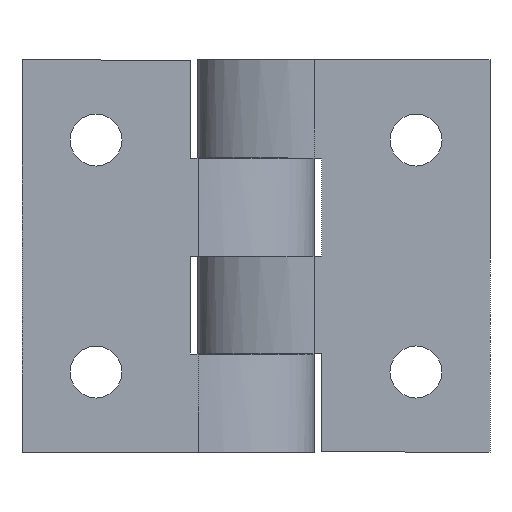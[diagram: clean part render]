
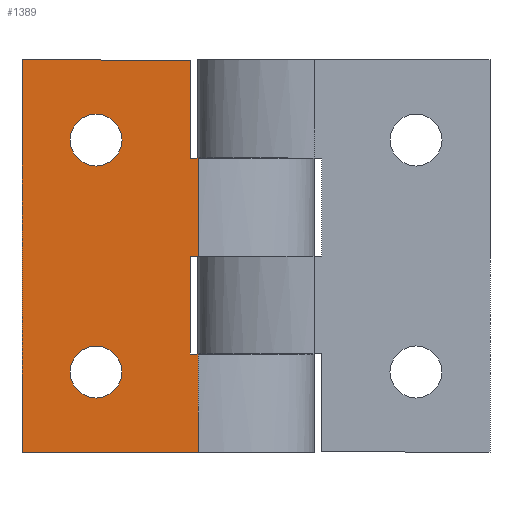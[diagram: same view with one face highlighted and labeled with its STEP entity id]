
A CAD part, front view. The second image highlights one B-rep face of the part: STEP entity #1389.
In plain terms, the highlighted planar face has unit normal (0, -1, 0).
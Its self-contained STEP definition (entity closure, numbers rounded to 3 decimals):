
#25 = ORIENTED_EDGE ( 'NONE', *, *, #521, .T. ) ;
#91 = DIRECTION ( 'NONE',  ( 0., 1., 0. ) ) ;
#119 = CARTESIAN_POINT ( 'NONE',  ( -14.965, -9.768, 73.5 ) ) ;
#129 = CARTESIAN_POINT ( 'NONE',  ( 21.569, -9.768, 61.25 ) ) ;
#153 = EDGE_CURVE ( 'NONE', #719, #1911, #1294, .T. ) ;
#163 = CARTESIAN_POINT ( 'NONE',  ( 6.069, -9.768, 49. ) ) ;
#174 = CARTESIAN_POINT ( 'NONE',  ( -5.715, -9.768, 34.5 ) ) ;
#180 = LINE ( 'NONE', #2132, #1171 ) ;
#298 = ORIENTED_EDGE ( 'NONE', *, *, #1225, .F. ) ;
#304 = DIRECTION ( 'NONE',  ( 0., 0., -1. ) ) ;
#316 = VECTOR ( 'NONE', #841, 1000. ) ;
#328 = VECTOR ( 'NONE', #304, 1000. ) ;
#339 = EDGE_CURVE ( 'NONE', #1317, #546, #1079, .T. ) ;
#357 = VERTEX_POINT ( 'NONE', #529 ) ;
#374 = EDGE_CURVE ( 'NONE', #1178, #357, #937, .T. ) ;
#452 = EDGE_CURVE ( 'NONE', #1843, #1629, #1779, .T. ) ;
#521 = EDGE_CURVE ( 'NONE', #1629, #1843, #1115, .T. ) ;
#525 = CARTESIAN_POINT ( 'NONE',  ( -14.965, -9.768, 73.5 ) ) ;
#529 = CARTESIAN_POINT ( 'NONE',  ( -2.465, -9.768, 34.5 ) ) ;
#546 = VERTEX_POINT ( 'NONE', #2108 ) ;
#552 = ORIENTED_EDGE ( 'NONE', *, *, #1111, .T. ) ;
#565 = LINE ( 'NONE', #129, #1947 ) ;
#574 = DIRECTION ( 'NONE',  ( 0., 0., -1. ) ) ;
#639 = DIRECTION ( 'NONE',  ( 0., 0., -1. ) ) ;
#657 = VERTEX_POINT ( 'NONE', #2102 ) ;
#673 = DIRECTION ( 'NONE',  ( 0., 0., -1. ) ) ;
#719 = VERTEX_POINT ( 'NONE', #883 ) ;
#727 = VECTOR ( 'NONE', #1598, 1000. ) ;
#730 = DIRECTION ( 'NONE',  ( 1., 0., 0. ) ) ;
#743 = LINE ( 'NONE', #525, #328 ) ;
#748 = CARTESIAN_POINT ( 'NONE',  ( -5.715, -9.768, 34.5 ) ) ;
#759 = CARTESIAN_POINT ( 'NONE',  ( -8.965, -9.768, 63.5 ) ) ;
#784 = EDGE_CURVE ( 'NONE', #1800, #719, #1169, .T. ) ;
#798 = CARTESIAN_POINT ( 'NONE',  ( 7.035, -9.768, 73.5 ) ) ;
#822 = FACE_BOUND ( 'NONE', #2000, .T. ) ;
#830 = ORIENTED_EDGE ( 'NONE', *, *, #452, .T. ) ;
#841 = DIRECTION ( 'NONE',  ( 0., 0., -1. ) ) ;
#851 = EDGE_CURVE ( 'NONE', #939, #657, #180, .T. ) ;
#856 = CARTESIAN_POINT ( 'NONE',  ( 6.069, -9.768, 49. ) ) ;
#857 = CARTESIAN_POINT ( 'NONE',  ( 7.035, -9.768, 61.25 ) ) ;
#881 = EDGE_CURVE ( 'NONE', #1162, #657, #1016, .T. ) ;
#883 = CARTESIAN_POINT ( 'NONE',  ( 6.069, -9.768, 73.5 ) ) ;
#889 = CARTESIAN_POINT ( 'NONE',  ( 7.035, -9.768, 73.5 ) ) ;
#896 = ORIENTED_EDGE ( 'NONE', *, *, #881, .F. ) ;
#937 = CIRCLE ( 'NONE', #1381, 3.25 ) ;
#939 = VERTEX_POINT ( 'NONE', #1753 ) ;
#952 = CARTESIAN_POINT ( 'NONE',  ( 7.035, -9.768, 73.5 ) ) ;
#961 = VECTOR ( 'NONE', #1471, 1000. ) ;
#981 = DIRECTION ( 'NONE',  ( -1., 0., 0. ) ) ;
#993 = ORIENTED_EDGE ( 'NONE', *, *, #374, .T. ) ;
#1016 = LINE ( 'NONE', #798, #1473 ) ;
#1048 = ORIENTED_EDGE ( 'NONE', *, *, #153, .F. ) ;
#1068 = CARTESIAN_POINT ( 'NONE',  ( 6.069, -9.768, 73.5 ) ) ;
#1079 = LINE ( 'NONE', #856, #1218 ) ;
#1105 = CARTESIAN_POINT ( 'NONE',  ( -5.715, -9.768, 63.5 ) ) ;
#1111 = EDGE_CURVE ( 'NONE', #1800, #939, #743, .T. ) ;
#1115 = CIRCLE ( 'NONE', #1632, 3.25 ) ;
#1119 = LINE ( 'NONE', #889, #1435 ) ;
#1162 = VERTEX_POINT ( 'NONE', #1308 ) ;
#1169 = LINE ( 'NONE', #952, #1696 ) ;
#1171 = VECTOR ( 'NONE', #1907, 1000. ) ;
#1178 = VERTEX_POINT ( 'NONE', #1478 ) ;
#1198 = VERTEX_POINT ( 'NONE', #1868 ) ;
#1201 = DIRECTION ( 'NONE',  ( 0., 1., 0. ) ) ;
#1212 = AXIS2_PLACEMENT_3D ( 'NONE', #1731, #1508, #1289 ) ;
#1218 = VECTOR ( 'NONE', #639, 1000. ) ;
#1225 = EDGE_CURVE ( 'NONE', #546, #1162, #2031, .T. ) ;
#1289 = DIRECTION ( 'NONE',  ( -1., 0., 0. ) ) ;
#1294 = LINE ( 'NONE', #1068, #316 ) ;
#1299 = ORIENTED_EDGE ( 'NONE', *, *, #339, .F. ) ;
#1308 = CARTESIAN_POINT ( 'NONE',  ( 7.035, -9.768, 36.75 ) ) ;
#1317 = VERTEX_POINT ( 'NONE', #163 ) ;
#1329 = AXIS2_PLACEMENT_3D ( 'NONE', #1425, #1201, #981 ) ;
#1381 = AXIS2_PLACEMENT_3D ( 'NONE', #748, #91, #2027 ) ;
#1389 = ADVANCED_FACE ( 'NONE', ( #1442, #822, #1556 ), #1957, .F. ) ;
#1404 = EDGE_CURVE ( 'NONE', #357, #1178, #1755, .T. ) ;
#1425 = CARTESIAN_POINT ( 'NONE',  ( -5.715, -9.768, 63.5 ) ) ;
#1435 = VECTOR ( 'NONE', #673, 1000. ) ;
#1442 = FACE_BOUND ( 'NONE', #2067, .T. ) ;
#1443 = EDGE_CURVE ( 'NONE', #1911, #2135, #565, .T. ) ;
#1471 = DIRECTION ( 'NONE',  ( -1., 0., 0. ) ) ;
#1473 = VECTOR ( 'NONE', #574, 1000. ) ;
#1478 = CARTESIAN_POINT ( 'NONE',  ( -8.965, -9.768, 34.5 ) ) ;
#1501 = AXIS2_PLACEMENT_3D ( 'NONE', #174, #1900, #1676 ) ;
#1508 = DIRECTION ( 'NONE',  ( 0., 1., 0. ) ) ;
#1553 = ORIENTED_EDGE ( 'NONE', *, *, #1443, .F. ) ;
#1556 = FACE_OUTER_BOUND ( 'NONE', #1564, .T. ) ;
#1564 = EDGE_LOOP ( 'NONE', ( #896, #298, #1299, #1974, #1767, #1553, #1048, #2110, #552, #2099 ) ) ;
#1598 = DIRECTION ( 'NONE',  ( 1., 0., 0. ) ) ;
#1629 = VERTEX_POINT ( 'NONE', #759 ) ;
#1632 = AXIS2_PLACEMENT_3D ( 'NONE', #1105, #2160, #1940 ) ;
#1676 = DIRECTION ( 'NONE',  ( -1., 0., 0. ) ) ;
#1694 = CARTESIAN_POINT ( 'NONE',  ( 21.569, -9.768, 49. ) ) ;
#1696 = VECTOR ( 'NONE', #730, 1000. ) ;
#1701 = ORIENTED_EDGE ( 'NONE', *, *, #1404, .T. ) ;
#1731 = CARTESIAN_POINT ( 'NONE',  ( 7.035, -9.768, 73.5 ) ) ;
#1753 = CARTESIAN_POINT ( 'NONE',  ( -14.965, -9.768, 24.5 ) ) ;
#1755 = CIRCLE ( 'NONE', #1501, 3.25 ) ;
#1767 = ORIENTED_EDGE ( 'NONE', *, *, #1849, .F. ) ;
#1779 = CIRCLE ( 'NONE', #1329, 3.25 ) ;
#1800 = VERTEX_POINT ( 'NONE', #119 ) ;
#1817 = CARTESIAN_POINT ( 'NONE',  ( 21.569, -9.768, 36.75 ) ) ;
#1843 = VERTEX_POINT ( 'NONE', #2003 ) ;
#1849 = EDGE_CURVE ( 'NONE', #2135, #1198, #1119, .T. ) ;
#1868 = CARTESIAN_POINT ( 'NONE',  ( 7.035, -9.768, 49. ) ) ;
#1900 = DIRECTION ( 'NONE',  ( 0., 1., 0. ) ) ;
#1907 = DIRECTION ( 'NONE',  ( 1., 0., 0. ) ) ;
#1911 = VERTEX_POINT ( 'NONE', #2015 ) ;
#1914 = LINE ( 'NONE', #1694, #961 ) ;
#1940 = DIRECTION ( 'NONE',  ( -1., 0., 0. ) ) ;
#1947 = VECTOR ( 'NONE', #2065, 1000. ) ;
#1957 = PLANE ( 'NONE',  #1212 ) ;
#1974 = ORIENTED_EDGE ( 'NONE', *, *, #1977, .F. ) ;
#1977 = EDGE_CURVE ( 'NONE', #1198, #1317, #1914, .T. ) ;
#2000 = EDGE_LOOP ( 'NONE', ( #993, #1701 ) ) ;
#2003 = CARTESIAN_POINT ( 'NONE',  ( -2.465, -9.768, 63.5 ) ) ;
#2015 = CARTESIAN_POINT ( 'NONE',  ( 6.069, -9.768, 61.25 ) ) ;
#2027 = DIRECTION ( 'NONE',  ( -1., 0., 0. ) ) ;
#2031 = LINE ( 'NONE', #1817, #727 ) ;
#2065 = DIRECTION ( 'NONE',  ( 1., 0., 0. ) ) ;
#2067 = EDGE_LOOP ( 'NONE', ( #25, #830 ) ) ;
#2099 = ORIENTED_EDGE ( 'NONE', *, *, #851, .T. ) ;
#2102 = CARTESIAN_POINT ( 'NONE',  ( 7.035, -9.768, 24.5 ) ) ;
#2108 = CARTESIAN_POINT ( 'NONE',  ( 6.069, -9.768, 36.75 ) ) ;
#2110 = ORIENTED_EDGE ( 'NONE', *, *, #784, .F. ) ;
#2132 = CARTESIAN_POINT ( 'NONE',  ( 7.035, -9.768, 24.5 ) ) ;
#2135 = VERTEX_POINT ( 'NONE', #857 ) ;
#2160 = DIRECTION ( 'NONE',  ( 0., 1., 0. ) ) ;
